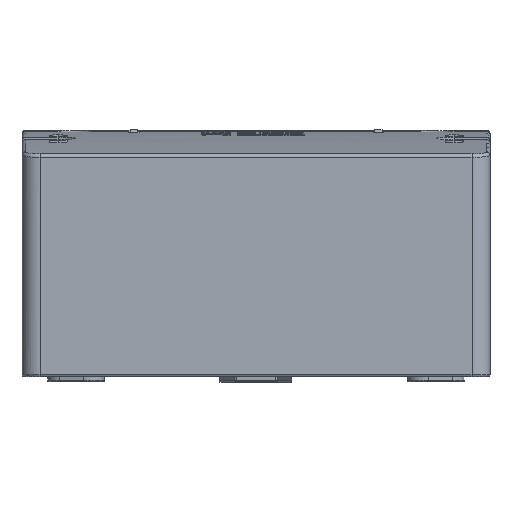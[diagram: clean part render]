
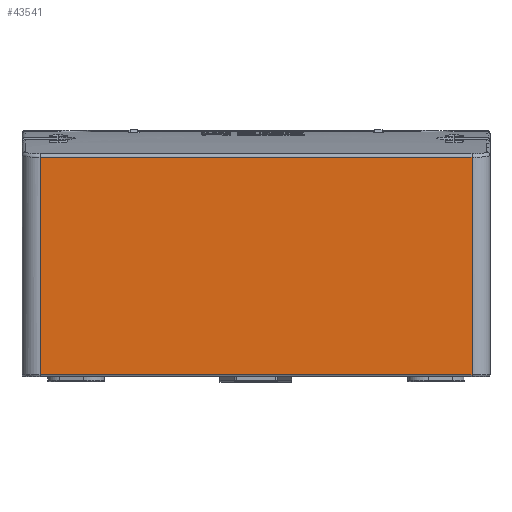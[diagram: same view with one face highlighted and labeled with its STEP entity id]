
A CAD part, front view. The second image highlights one B-rep face of the part: STEP entity #43541.
In plain terms, the highlighted planar face has unit normal (0, -1, 0) as drawn and (-1, 0, 0) by its records, which use the part's own axes.
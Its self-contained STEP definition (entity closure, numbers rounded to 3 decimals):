
#2889 = PLANE ( 'NONE',  #40486 ) ;
#7270 = CARTESIAN_POINT ( 'NONE',  ( 0., 5., 69.969 ) ) ;
#9285 = DIRECTION ( 'NONE',  ( 0., 0., -1. ) ) ;
#9742 = VECTOR ( 'NONE', #62384, 1000. ) ;
#11122 = ORIENTED_EDGE ( 'NONE', *, *, #47178, .T. ) ;
#11167 = FACE_OUTER_BOUND ( 'NONE', #65420, .T. ) ;
#12061 = CARTESIAN_POINT ( 'NONE',  ( 0., 5., 77. ) ) ;
#13307 = CARTESIAN_POINT ( 'NONE',  ( 0., 5., 9.57 ) ) ;
#14328 = LINE ( 'NONE', #71833, #40628 ) ;
#20496 = CARTESIAN_POINT ( 'NONE',  ( 0., 125., 69.969 ) ) ;
#21192 = EDGE_CURVE ( 'NONE', #27332, #56050, #78739, .T. ) ;
#22157 = EDGE_CURVE ( 'NONE', #56050, #70016, #70808, .T. ) ;
#27313 = CARTESIAN_POINT ( 'NONE',  ( 0., 5., 9.57 ) ) ;
#27332 = VERTEX_POINT ( 'NONE', #61381 ) ;
#35006 = DIRECTION ( 'NONE',  ( 0., 1., 0. ) ) ;
#40486 = AXIS2_PLACEMENT_3D ( 'NONE', #77435, #46471, #35006 ) ;
#40628 = VECTOR ( 'NONE', #9285, 1000. ) ;
#42060 = ORIENTED_EDGE ( 'NONE', *, *, #22157, .T. ) ;
#43541 = ADVANCED_FACE ( 'NONE', ( #11167 ), #2889, .F. ) ;
#46471 = DIRECTION ( 'NONE',  ( 1., 0., 0. ) ) ;
#47178 = EDGE_CURVE ( 'NONE', #70016, #47333, #68113, .T. ) ;
#47333 = VERTEX_POINT ( 'NONE', #20496 ) ;
#50879 = DIRECTION ( 'NONE',  ( 0., -1., 0. ) ) ;
#55274 = VECTOR ( 'NONE', #56448, 1000. ) ;
#56050 = VERTEX_POINT ( 'NONE', #27313 ) ;
#56448 = DIRECTION ( 'NONE',  ( 0., 0., 1. ) ) ;
#60024 = ORIENTED_EDGE ( 'NONE', *, *, #65451, .T. ) ;
#60298 = VECTOR ( 'NONE', #50879, 1000. ) ;
#61381 = CARTESIAN_POINT ( 'NONE',  ( 0., 125., 9.57 ) ) ;
#62384 = DIRECTION ( 'NONE',  ( 0., 1., 0. ) ) ;
#65420 = EDGE_LOOP ( 'NONE', ( #60024, #69476, #42060, #11122 ) ) ;
#65451 = EDGE_CURVE ( 'NONE', #47333, #27332, #14328, .T. ) ;
#68113 = LINE ( 'NONE', #69156, #9742 ) ;
#69156 = CARTESIAN_POINT ( 'NONE',  ( 0., 125., 69.969 ) ) ;
#69476 = ORIENTED_EDGE ( 'NONE', *, *, #21192, .T. ) ;
#70016 = VERTEX_POINT ( 'NONE', #7270 ) ;
#70808 = LINE ( 'NONE', #12061, #55274 ) ;
#71833 = CARTESIAN_POINT ( 'NONE',  ( 0., 125., 77. ) ) ;
#77435 = CARTESIAN_POINT ( 'NONE',  ( 0., 0., 77. ) ) ;
#78739 = LINE ( 'NONE', #13307, #60298 ) ;
